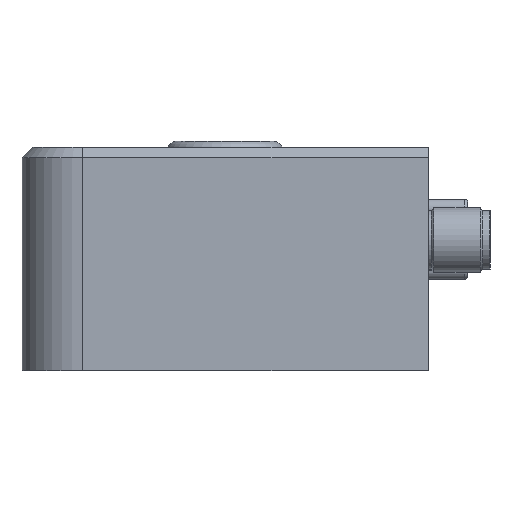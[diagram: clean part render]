
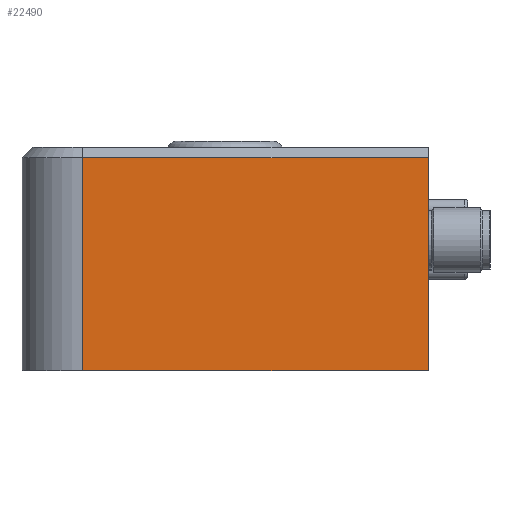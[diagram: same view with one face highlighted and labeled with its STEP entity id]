
A CAD part, left-side view. The second image highlights one B-rep face of the part: STEP entity #22490.
In plain terms, the highlighted planar face has unit normal (-1, 0, 0).
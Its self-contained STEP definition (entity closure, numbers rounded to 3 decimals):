
#1675=PLANE($,#23858);
#3324=FACE_OUTER_BOUND($,#4939,.T.);
#4939=EDGE_LOOP($,(#19634,#19635,#19636,#19637));
#5838=LINE($,#30413,#7642);
#6574=LINE($,#34942,#8378);
#7190=LINE($,#40014,#8994);
#7199=LINE($,#40040,#9003);
#7642=VECTOR($,#24708,21.);
#8378=VECTOR($,#26602,34.);
#8994=VECTOR($,#28286,34.);
#9003=VECTOR($,#28321,21.);
#9588=VERTEX_POINT($,#30409);
#9590=VERTEX_POINT($,#30412);
#10208=VERTEX_POINT($,#34935);
#11016=VERTEX_POINT($,#40012);
#11696=EDGE_CURVE($,#9588,#9590,#5838,.T.);
#12773=EDGE_CURVE($,#9590,#10208,#6574,.T.);
#13896=EDGE_CURVE($,#11016,#9588,#7190,.T.);
#13908=EDGE_CURVE($,#10208,#11016,#7199,.T.);
#19634=ORIENTED_EDGE($,*,*,#13896,.F.);
#19635=ORIENTED_EDGE($,*,*,#13908,.F.);
#19636=ORIENTED_EDGE($,*,*,#12773,.F.);
#19637=ORIENTED_EDGE($,*,*,#11696,.F.);
#22490=ADVANCED_FACE($,(#3324),#1675,.T.);
#23858=AXIS2_PLACEMENT_3D($,#40041,#28322,#28323);
#24708=DIRECTION($,(0.,0.,-1.));
#26602=DIRECTION($,(0.,1.,0.));
#28286=DIRECTION($,(0.,-1.,0.));
#28321=DIRECTION($,(0.,0.,1.));
#28322=DIRECTION('center_axis',(-1.,0.,0.));
#28323=DIRECTION('ref_axis',(0.,1.,0.));
#30409=CARTESIAN_POINT('',(141.,65.1,60.418));
#30412=CARTESIAN_POINT('',(141.,65.1,39.418));
#30413=CARTESIAN_POINT($,(141.,65.1,61.418));
#34935=CARTESIAN_POINT('',(141.,99.1,39.418));
#34942=CARTESIAN_POINT($,(141.,65.1,39.418));
#40012=CARTESIAN_POINT('',(141.,99.1,60.418));
#40014=CARTESIAN_POINT($,(141.,76.6,60.418));
#40040=CARTESIAN_POINT($,(141.,99.1,61.418));
#40041=CARTESIAN_POINT('Origin',(141.,67.1,61.418));
